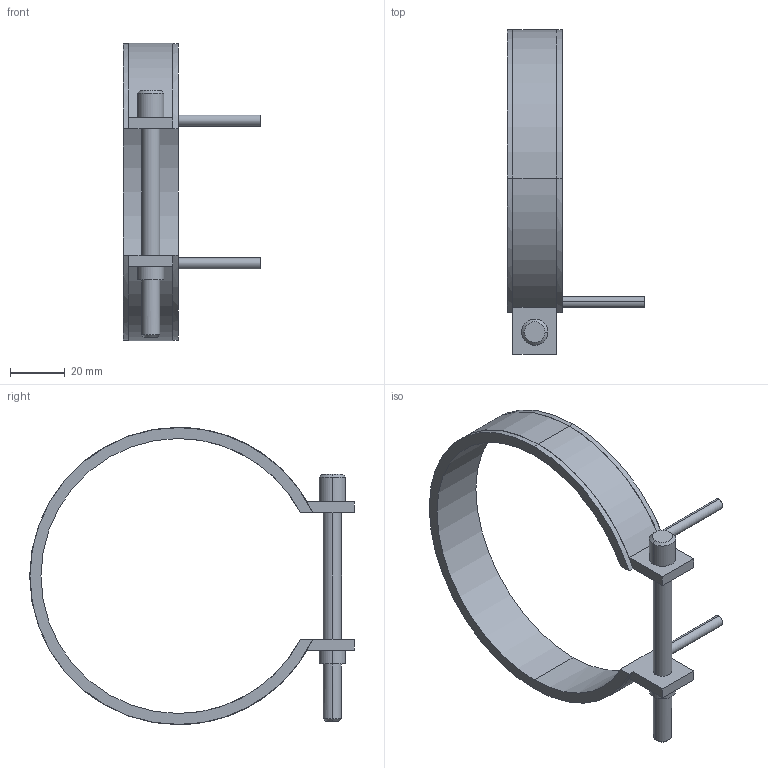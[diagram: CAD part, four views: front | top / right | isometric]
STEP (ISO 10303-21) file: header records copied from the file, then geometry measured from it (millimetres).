
FILE_DESCRIPTION(('CATIA V5 STEP Exchange'),'2;1');
FILE_NAME('C:\Users\Utente\Desktop\IO LAVORO\3D X SITO CF\X SITO\PLASTICA\RF2\14100020.stp','2021-04-03T08:57:45+00:00',('none'),('none'),'CATIA Version 5 Release 20 GA (IN-10)','CATIA V5 STEP AP203','none');
FILE_SCHEMA(('CONFIG_CONTROL_DESIGN'));
Length unit declared in the file: millimetre
Products named in the file (1): 14100020
Bounding box: 50 x 118.1 x 108.2 mm (x, y, z)
Volume: 28984.3 mm3; surface area: 17418.7 mm2
Topology: 1 solids, 1 shells, 45 faces, 116 edges, 76 vertices
Faces by surface type: cylinder 24, plane 17, cone 4
Entity records: 1400 total; most frequent: CARTESIAN_POINT 274, ORIENTED_EDGE 232, DIRECTION 196, EDGE_CURVE 116, AXIS2_PLACEMENT_3D 104, VERTEX_POINT 76, CIRCLE 62, VECTOR 52
